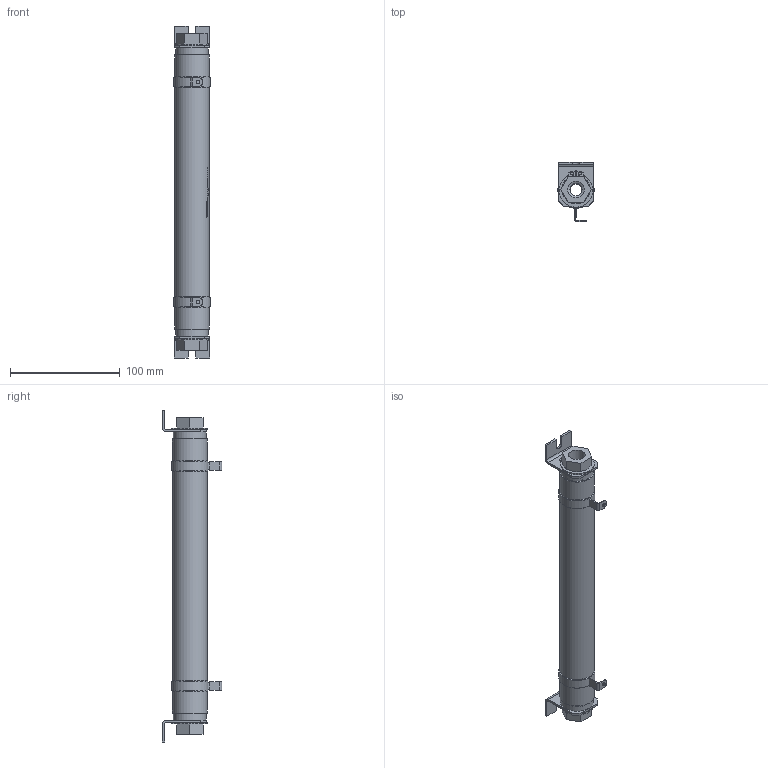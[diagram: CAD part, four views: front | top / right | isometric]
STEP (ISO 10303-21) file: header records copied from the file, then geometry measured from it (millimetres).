
FILE_DESCRIPTION(/* description */ (' '),/* implementation_level */ '2;1');
FILE_NAME(/* name */ 'WCR30250',/* time_stamp */ '2017-09-14T16:04:52+02:00',/* author */ ('VISHAY MCB INDUSTRIE'),/* organization */ (' '),/* preprocessor_version */ 'ST-DEVELOPER v16.7',/* originating_system */ 'DEX',/* authorisation */ $);
FILE_SCHEMA (('AUTOMOTIVE_DESIGN {1 0 10303 214 3 1 1}'));
Length unit declared in the file: millimetre
Products named in the file (9): 110-017; 278381; 211024; 110-016_oa_0; 110-004; 211026; 110-016_email; 110-017_marquage; Ciclips Inox D28
Assembly tree (13 placements, depth 3):
  110-017
    278381  x2
    211024  x2
    110-016_oa_0
      110-004  x2
      211026  x2
      110-016_email
    110-017_marquage
    Ciclips Inox D28  x2
Bounding box: 33 x 53.98 x 302 mm (x, y, z)
Volume: 43581.8 mm3; surface area: 69063.4 mm2
Topology: 81 solids, 152 shells, 909 faces, 2473 edges, 1807 vertices
Faces by surface type: plane 409, cylinder 280, bspline 200, torus 14, cone 6
Full cylindrical faces by diameter (mm): 2.59 x4, 3.2 x2, 10.917 x2, 14.95 x2, 22.4 x2, 28.4 x2, 30 x3, 31.5 x3, 33 x2
Entity records: 38084 total; most frequent: CARTESIAN_POINT 20552, ORIENTED_EDGE 3848, EDGE_CURVE 2166, B_SPLINE_CURVE_WITH_KNOTS 1894, VERTEX_POINT 1626, DIRECTION 1610, EDGE_LOOP 915, FACE_BOUND 915
